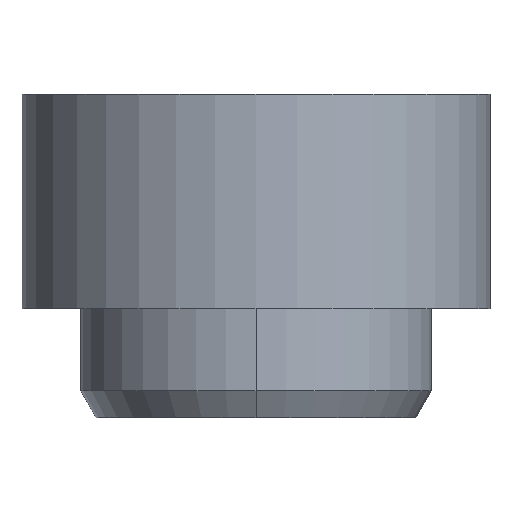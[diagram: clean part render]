
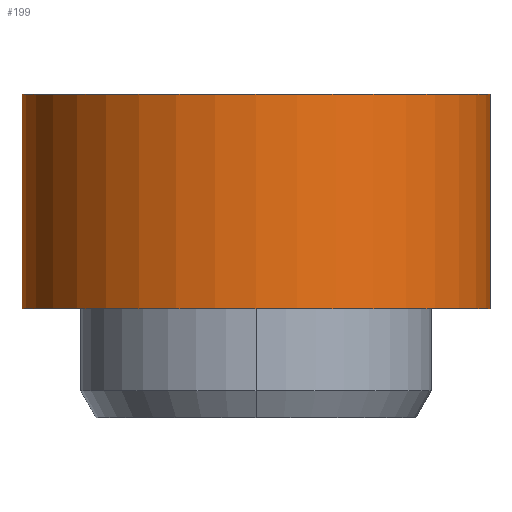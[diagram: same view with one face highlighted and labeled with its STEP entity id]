
A CAD part, front view. The second image highlights one B-rep face of the part: STEP entity #199.
In plain terms, the highlighted cylindrical face has radius 3 mm (diameter 6 mm), a partial arc.
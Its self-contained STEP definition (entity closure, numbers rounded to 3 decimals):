
#7=CARTESIAN_POINT('',(0.,0.,-1.));
#8=DIRECTION('',(0.,0.,-1.));
#9=DIRECTION('',(1.,0.,0.));
#10=AXIS2_PLACEMENT_3D('',#7,#8,#9);
#22=DIRECTION('',(0.,0.,-1.));
#23=VECTOR('',#22,2.75);
#24=CARTESIAN_POINT('',(3.,0.,1.75));
#25=LINE('',#24,#23);
#26=DIRECTION('',(0.,0.,-1.));
#27=VECTOR('',#26,2.75);
#28=CARTESIAN_POINT('',(-3.,0.,1.75));
#29=LINE('',#28,#27);
#35=CARTESIAN_POINT('',(0.,0.,1.75));
#36=DIRECTION('',(0.,0.,-1.));
#37=DIRECTION('',(1.,0.,0.));
#38=AXIS2_PLACEMENT_3D('',#35,#36,#37);
#122=CARTESIAN_POINT('',(-3.,0.,-1.));
#123=CARTESIAN_POINT('',(3.,0.,-1.));
#124=VERTEX_POINT('',#122);
#125=VERTEX_POINT('',#123);
#126=CARTESIAN_POINT('',(-3.,0.,1.75));
#127=CARTESIAN_POINT('',(3.,0.,1.75));
#128=VERTEX_POINT('',#126);
#129=VERTEX_POINT('',#127);
#187=CARTESIAN_POINT('',(0.,0.,-1.));
#188=DIRECTION('',(0.,0.,1.));
#189=DIRECTION('',(1.,0.,0.));
#190=AXIS2_PLACEMENT_3D('',#187,#188,#189);
#191=CYLINDRICAL_SURFACE('',#190,3.);
#192=ORIENTED_EDGE('',*,*,#161,.T.);
#193=ORIENTED_EDGE('',*,*,#182,.F.);
#195=ORIENTED_EDGE('',*,*,#194,.F.);
#196=ORIENTED_EDGE('',*,*,#178,.T.);
#197=EDGE_LOOP('',(#192,#193,#195,#196));
#198=FACE_OUTER_BOUND('',#197,.F.);
#199=ADVANCED_FACE('',(#198),#191,.T.);
#11=CIRCLE('',#10,3.);
#39=CIRCLE('',#38,3.);
#161=EDGE_CURVE('',#125,#124,#11,.T.);
#178=EDGE_CURVE('',#129,#125,#25,.T.);
#182=EDGE_CURVE('',#128,#124,#29,.T.);
#194=EDGE_CURVE('',#129,#128,#39,.T.);
